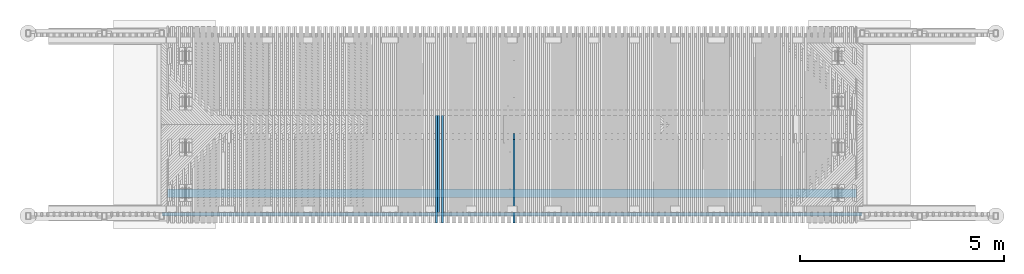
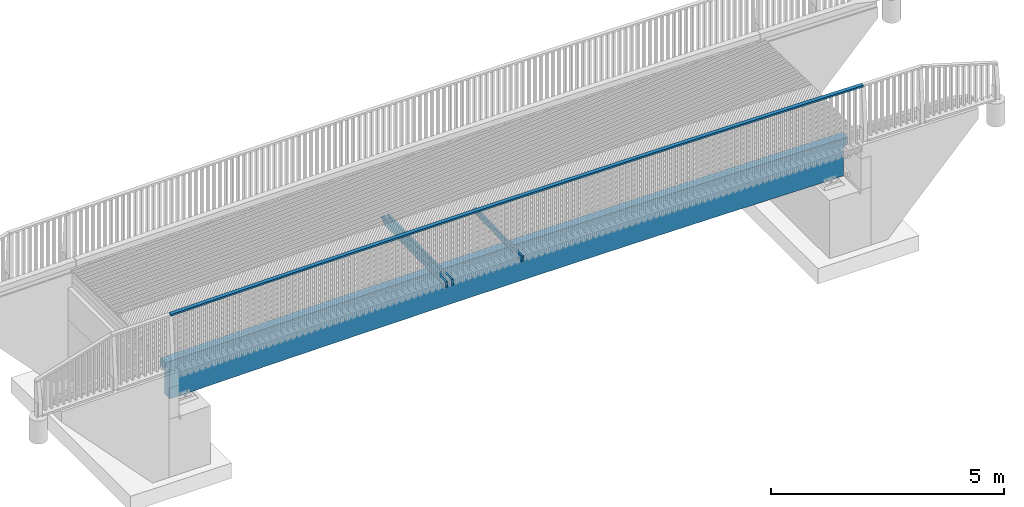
# One storey, part 23 of 47: 6 beams.
"""IFC2X3 building model written with IfcOpenShell, lengths in millimetres."""

import ifcopenshell
import ifcopenshell.guid

model = None  # the IFC model being written
_history = None  # IfcOwnerHistory: only IFC2X3 demands one
_inside = {}  # id of a spatial element -> (the spatial element, [elements in it])
_under = {}  # id of a project, library or spatial element -> (it, [spatial elements below it])
_declared = {}  # id of a project -> (the project, [libraries it declares])
_typed = {}  # id of a type object -> (the type object, [elements of that type])
_made_of = {}  # id of a material, layer set ... -> (it, [elements and type objects made of it])


def new_model(schema):
    """Start an empty IFC model of exactly this schema.

    Asked for "IFC4X3", IfcOpenShell would pick the latest addendum, in which some entities
    have other attributes; the version numbers below select the first issue.
    IFC2X3 requires an IfcOwnerHistory on every rooted entity: one is made here for all.
    """
    global model, _history
    if schema == "IFC4X3":
        model = ifcopenshell.file(schema_version=(4, 3, 0, 0))
    else:
        model = ifcopenshell.file(schema=schema)
    _inside.clear()
    _under.clear()
    _declared.clear()
    _typed.clear()
    _made_of.clear()
    _history = None
    if model.schema == "IFC2X3":
        org = make("IfcOrganization", Name="unknown")
        user = make(
            "IfcPersonAndOrganization",
            ThePerson=make("IfcPerson", FamilyName="unknown"),
            TheOrganization=org,
        )
        app = make(
            "IfcApplication",
            ApplicationDeveloper=org,
            Version="unknown",
            ApplicationFullName="unknown",
            ApplicationIdentifier="unknown",
        )
        _history = make(
            "IfcOwnerHistory",
            OwningUser=user,
            OwningApplication=app,
            ChangeAction="ADDED",
            CreationDate=0,
        )
    return model


def make(cls, **values):
    """One entity of the class cls with the attributes given. An attribute that is None is left unset."""
    return model.create_entity(
        cls, **{name: value for name, value in values.items() if value is not None}
    )


def rooted(cls, **values):
    """An entity with a GlobalId (a new one), such as an element, a storey or a relation."""
    return make(cls, GlobalId=ifcopenshell.guid.new(), OwnerHistory=_history, **values)


def si_unit(unit_type, name, prefix=None):
    """IfcSIUnit, for example si_unit("LENGTHUNIT", "METRE", prefix="MILLI")."""
    return make("IfcSIUnit", UnitType=unit_type, Prefix=prefix, Name=name)


def assignment(units):
    """IfcUnitAssignment: the units of a project."""
    return None if units is None else make("IfcUnitAssignment", Units=units)


def point(xyz):
    """IfcCartesianPoint."""
    return None if xyz is None else make("IfcCartesianPoint", Coordinates=xyz)


def direction(xyz):
    """IfcDirection."""
    return None if xyz is None else make("IfcDirection", DirectionRatios=xyz)


def frame(location, z_axis=None, x_axis=None):
    """IfcAxis2Placement3D, a coordinate frame: its origin and axes. An axis left out is left unset."""
    return make(
        "IfcAxis2Placement3D",
        Location=point(location),
        Axis=direction(z_axis),
        RefDirection=direction(x_axis),
    )


def origin_with_axes():
    """The frame at (0, 0, 0) with the z axis (0, 0, 1) and the x axis (1, 0, 0) written out."""
    return frame((0.0, 0.0, 0.0), z_axis=(0.0, 0.0, 1.0), x_axis=(1.0, 0.0, 0.0))


def place(relative_to, where):
    """IfcLocalPlacement: puts the frame where relative to a parent placement (None: the world)."""
    return make(
        "IfcLocalPlacement", PlacementRelTo=relative_to, RelativePlacement=where
    )


def context(
    kind, dimensions, precision=None, world=None, true_north=None, identifier=None
):
    """IfcGeometricRepresentationContext, for example the 3D "Model" context."""
    return make(
        "IfcGeometricRepresentationContext",
        ContextIdentifier=identifier,
        ContextType=kind,
        CoordinateSpaceDimension=dimensions,
        Precision=precision,
        WorldCoordinateSystem=world,
        TrueNorth=true_north,
    )


def subcontext(parent, identifier, kind, view, scale=None):
    """IfcGeometricRepresentationSubContext, for example "Body" below "Model"."""
    return make(
        "IfcGeometricRepresentationSubContext",
        ContextIdentifier=identifier,
        ContextType=kind,
        ParentContext=parent,
        TargetScale=scale,
        TargetView=view,
    )


def project(units=None, contexts=None):
    """IfcProject with its units and contexts."""
    return rooted(
        "IfcProject",
        Name="project",
        RepresentationContexts=contexts,
        UnitsInContext=assignment(units),
    )


def spatial(cls, under=None, at=None, **own):
    """A site, building, storey or space (cls), placed at a placement, below another one or the project."""
    s = rooted(cls, ObjectPlacement=at, **own)
    if under is not None:
        _under.setdefault(under.id(), (under, []))[1].append(s)
    return s


def faces_of(points, faces, orient=None, outer=None):
    """IfcFace entities. A face is a list of loops; a loop is a list of indices into points, from 0.

    orient and outer hold one flag for each loop. By default every Orientation is true, the
    first loop of a face is its IfcFaceOuterBound and the others are IfcFaceBound.
    """
    made = []
    for i, loops in enumerate(faces):
        bounds = []
        for j, loop in enumerate(loops):
            is_outer = j == 0 if outer is None else outer[i][j]
            bounds.append(
                make(
                    "IfcFaceOuterBound" if is_outer else "IfcFaceBound",
                    Bound=make("IfcPolyLoop", Polygon=[points[k] for k in loop]),
                    Orientation=True if orient is None else orient[i][j],
                )
            )
        made.append(make("IfcFace", Bounds=bounds))
    return made


def faceted_brep(points, faces, orient=None, outer=None, voids=None):
    """IfcFacetedBrep: a solid bounded by flat faces; with voids (closed shells), ...WithVoids."""
    shared = [point(p) for p in points]
    hull = make("IfcClosedShell", CfsFaces=faces_of(shared, faces, orient, outer))
    if voids is None:
        return make("IfcFacetedBrep", Outer=hull)
    return make(
        "IfcFacetedBrepWithVoids",
        Outer=hull,
        Voids=[
            make(cls, CfsFaces=faces_of(shared, fs, o, b)) for cls, fs, o, b in voids
        ],
    )


def shape(context_of_items, identifier, shape_type, items):
    """IfcShapeRepresentation: the items that make up one representation, for example the "Body"."""
    return make(
        "IfcShapeRepresentation",
        ContextOfItems=context_of_items,
        RepresentationIdentifier=identifier,
        RepresentationType=shape_type,
        Items=items,
    )


def material(Name=None, Category=None):
    """IfcMaterial."""
    return make("IfcMaterial", Name=Name, Category=Category)


def made_of(thing, what):
    """Note that an element or type object is made of a material, layer set ...; save() writes the relation."""
    if what is not None:
        _made_of.setdefault(what.id(), (what, []))[1].append(thing)
    return thing


def type_object(cls, material=None, **own):
    """A type object (cls), such as IfcWallType, which elements share."""
    return made_of(rooted(cls, **own), material)


def element(
    cls,
    number,
    at=None,
    inside=None,
    cuts=None,
    type_object=None,
    material=None,
    context=None,
    identifier="Body",
    shape_type=None,
    held_by="IfcProductDefinitionShape",
    body=None,
    shapes=None,
    **own,
):
    """One element of the class cls, such as IfcWall. Its Tag is "e" and its number.

    at: its placement. inside: the storey or other place that contains it. cuts: it is an
    opening in that element (IfcRelVoidsElement). A single representation is given by context,
    identifier, shape_type and body (its items); several are given by shapes. held_by: the class
    of the entity that holds the representations. save() writes the other relations.
    """
    e = rooted(cls, Tag="e%d" % number, ObjectPlacement=at, **own)
    if body is not None:
        shapes = [shape(context, identifier, shape_type, body)]
    if shapes is not None:
        e.Representation = make(held_by, Representations=shapes)
    if inside is not None:
        _inside.setdefault(inside.id(), (inside, []))[1].append(e)
    if cuts is not None:
        rooted(
            "IfcRelVoidsElement", RelatingBuildingElement=cuts, RelatedOpeningElement=e
        )
    if type_object is not None:
        _typed.setdefault(type_object.id(), (type_object, []))[1].append(e)
    return made_of(e, material)


def aggregate(whole, parts):
    """IfcRelAggregates: a whole, such as a stair, and the parts it consists of."""
    return rooted("IfcRelAggregates", RelatingObject=whole, RelatedObjects=parts)


def save(model, path):
    """Write the relations noted so far, then the file.

    IfcRelAggregates (storeys below a building ...), IfcRelContainedInSpatialStructure (elements
    in a storey), IfcRelDefinesByType, IfcRelAssociatesMaterial and IfcRelDeclares: one each for
    every whole, place, type object, material and project.
    """
    for whole, parts in _under.values():
        aggregate(whole, parts)
    for where, things in _inside.values():
        rooted(
            "IfcRelContainedInSpatialStructure",
            RelatedElements=things,
            RelatingStructure=where,
        )
    for kind, things in _typed.values():
        rooted("IfcRelDefinesByType", RelatedObjects=things, RelatingType=kind)
    for what, things in _made_of.values():
        rooted("IfcRelAssociatesMaterial", RelatedObjects=things, RelatingMaterial=what)
    for by, libraries in _declared.values():
        rooted("IfcRelDeclares", RelatingContext=by, RelatedDefinitions=libraries)
    model.write(path)


model = new_model("IFC2X3")

# Units and contexts
model_context = context("Model", 3, precision=1e-05, world=origin_with_axes())
body_context = subcontext(model_context, "Body", "Model", "MODEL_VIEW")
ifc_project = project(units=[si_unit("LENGTHUNIT", "METRE", prefix="MILLI"), si_unit("AREAUNIT", "SQUARE_METRE"), si_unit("VOLUMEUNIT", "CUBIC_METRE"), si_unit("MASSUNIT", "GRAM", prefix="KILO"), si_unit("TIMEUNIT", "SECOND"), si_unit("PLANEANGLEUNIT", "RADIAN"), si_unit("SOLIDANGLEUNIT", "STERADIAN"), si_unit("THERMODYNAMICTEMPERATUREUNIT", "DEGREE_CELSIUS"), si_unit("LUMINOUSINTENSITYUNIT", "LUMEN")], contexts=[model_context])

# Site, building, storey
site_placement = place(None, origin_with_axes())
site = spatial("IfcSite", under=ifc_project, at=site_placement, Name="Undefined", CompositionType="ELEMENT")
building_placement = place(site_placement, origin_with_axes())
building = spatial("IfcBuilding", under=site, at=building_placement, Name="Undefined", CompositionType="ELEMENT")
storey_placement = place(building_placement, origin_with_axes())
storey = spatial("IfcBuildingStorey", under=building, at=storey_placement, Name="Undefined", CompositionType="ELEMENT", Elevation=0.0)

# Beams
ifc_material = material(Name="TIMBER/Timber_Undefined")
beam_type_1 = type_object("IfcBeamType", Name="95*45", PredefinedType="NOTDEFINED")
beam_1_placement = place(storey_placement, frame((-2047.37477855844, 60167.5120919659, 4507.13687854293), z_axis=(0.0, -1.0, 0.0), x_axis=(1.0, 0.0, 0.0)))
element("IfcBeam", 1, at=beam_1_placement, inside=storey, type_object=beam_type_1, material=ifc_material, Name="YLÄJOHDE", ObjectType="95*45", context=body_context, shape_type="Brep", body=[
    faceted_brep([(1607.15024844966, 47.1338297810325, 47.5), (1607.15024844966, 47.1338297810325, -47.5), (1470.37516889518, 45.1743421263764, -47.5), (1470.37516889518, 45.1743421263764, 47.5), (1607.77987788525, 2.13823481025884, -47.5), (1607.77987788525, 2.13823481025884, 47.5), (1470.37516880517, 0.169726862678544, 47.5), (1470.37516880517, 0.169726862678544, -47.5), (2009.64096669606, 7.62762641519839, 47.5), (2009.04131779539, 52.6236309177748, 47.5), (2009.04131779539, 52.6236309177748, -47.5), (2009.64096669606, 7.62762641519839, -47.5), (2411.50562386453, 12.849258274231, -47.5), (2411.50562386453, 12.849258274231, 47.5), (2410.935955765, 57.845652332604, 47.5), (2410.935955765, 57.845652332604, -47.5), (2812.83398393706, 62.7998917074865, -47.5), (2813.37367098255, 17.8031280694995, -47.5), (2813.37367098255, 17.8031280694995, 47.5), (2812.83398393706, 62.7998917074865, 47.5), (3214.73522388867, 67.4863468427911, 47.5), (3214.73522388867, 67.4863468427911, -47.5), (3215.24492964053, 22.4892336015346, -47.5), (3215.24492964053, 22.4892336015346, 47.5), (3617.11922142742, 26.9075727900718, 47.5), (3616.63949719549, 71.9050156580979, 47.5), (3616.63949719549, 71.9050156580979, -47.5), (3617.11922142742, 26.9075727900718, -47.5), (4018.99636793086, 31.0581436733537, -47.5), (4018.99636793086, 31.0581436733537, 47.5), (4018.54662543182, 76.0558961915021, 47.5), (4018.54662543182, 76.0558961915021, -47.5), (4420.45643017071, 79.9389866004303, -47.5), (4420.87619073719, 34.9409444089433, -47.5), (4420.87619073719, 34.9409444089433, 47.5), (4420.45643017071, 79.9389866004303, 47.5), (4822.36873298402, 83.5542851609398, 47.5), (4822.36873298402, 83.5542851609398, -47.5), (4822.75851143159, 38.555973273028, -47.5), (4822.75851143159, 38.555973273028, 47.5), (5224.64315159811, 41.903228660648, 47.5), (5224.2833554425, 86.9017902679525, 47.5), (5224.2833554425, 86.9017902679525, -47.5), (5224.64315159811, 41.903228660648, -47.5), (5626.52993281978, 44.982709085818, -47.5), (5626.52993281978, 44.982709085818, 47.5), (5626.20011911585, 89.9815004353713, 47.5), (5626.20011911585, 89.9815004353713, -47.5), (6028.11884557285, 92.7934142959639, -47.5), (6028.41867667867, 47.7944131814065, -47.5), (6028.41867667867, 47.7944131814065, 47.5), (6028.11884557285, 92.7934142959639, 47.5), (6430.0393563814, 95.3375306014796, 47.5), (6430.0393563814, 95.3375306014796, -47.5), (6430.309204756, 50.3383396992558, -47.5), (6430.309204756, 50.3383396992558, 47.5), (6832.20133863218, 52.6144875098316, 47.5), (6831.96147310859, 97.6138482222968, 47.5), (6831.96147310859, 97.6138482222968, -47.5), (6832.20133863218, 52.6144875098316, -47.5), (7234.09489988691, 54.6228556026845, -47.5), (7234.09489988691, 54.6228556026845, 47.5), (7233.88501732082, 99.6223661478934, 47.5), (7233.88501732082, 99.6223661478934, -47.5), (7635.80981058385, 101.363083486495, -47.5), (7635.98971009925, 56.3634430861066, -47.5), (7635.98971009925, 56.3634430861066, 47.5), (7635.80981058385, 101.363083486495, 47.5), (8037.73567446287, 102.835999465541, 47.5), (8037.73567446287, 102.835999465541, -47.5), (8037.88559084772, 57.8362491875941, -47.5), (8037.88559084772, 57.8362491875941, 47.5), (8439.78236371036, 59.0412732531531, 47.5), (8439.66243052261, 104.041113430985, 47.5), (8439.66243052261, 104.041113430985, -47.5), (8439.78236371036, 59.0412732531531, -47.5), (8841.67985026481, 59.9785147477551, -47.5), (8841.67985026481, 59.9785147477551, 47.5), (8841.5899003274, 104.978424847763, 47.5), (8841.5899003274, 104.978424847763, -47.5), (9243.51790544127, 105.647933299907, -47.5), (9243.57787208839, 60.6479732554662, -47.5), (9243.57787208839, 60.6479732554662, 47.5), (9243.51790544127, 105.647933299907, 47.5), (9645.44626742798, 106.049638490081, 47.5), (9645.44626742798, 106.049638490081, -47.5), (9645.47625075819, 61.0496484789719, -47.5), (9645.47625075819, 61.0496484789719, 47.5), (10047.3748078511, 61.1835402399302, 47.5), (10047.3748078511, 106.18354023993, 47.5), (10047.3748078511, 106.18354023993, -47.5), (10047.3748078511, 61.1835402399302, -47.5), (10449.2733649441, 61.0496484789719, -47.5), (10449.2733649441, 61.0496484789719, 47.5), (10449.3033482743, 106.049638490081, 47.5), (10449.3033482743, 106.049638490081, -47.5), (10851.231710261, 105.647933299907, -47.5), (10851.1717436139, 60.6479732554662, -47.5), (10851.1717436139, 60.6479732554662, 47.5), (10851.231710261, 105.647933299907, 47.5), (11253.1597153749, 104.978424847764, 47.5), (11253.1597153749, 104.978424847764, -47.5), (11253.0697654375, 59.978514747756, -47.5), (11253.0697654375, 59.978514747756, 47.5), (11654.9672519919, 59.0412732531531, 47.5), (11655.0871851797, 104.041113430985, 47.5), (11655.0871851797, 104.041113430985, -47.5), (11654.9672519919, 59.0412732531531, -47.5), (12056.8640248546, 57.8362491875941, -47.5), (12056.8640248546, 57.8362491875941, 47.5), (12057.0139412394, 102.835999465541, 47.5), (12057.0139412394, 102.835999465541, -47.5), (12458.9398051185, 101.363083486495, -47.5), (12458.7599056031, 56.3634430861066, -47.5), (12458.7599056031, 56.3634430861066, 47.5), (12458.9398051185, 101.363083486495, 47.5), (12860.8645983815, 99.6223661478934, 47.5), (12860.8645983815, 99.6223661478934, -47.5), (12860.6547158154, 54.6228556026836, -47.5), (12860.6547158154, 54.6228556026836, 47.5), (13262.5482770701, 52.6144875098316, 47.5), (13262.7881425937, 97.6138482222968, 47.5), (13262.7881425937, 97.6138482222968, -47.5), (13262.5482770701, 52.6144875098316, -47.5), (13664.4404109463, 50.3383396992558, -47.5), (13664.4404109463, 50.3383396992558, 47.5), (13664.7102593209, 95.3375306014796, 47.5), (13664.7102593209, 95.3375306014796, -47.5), (14066.6307701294, 92.7934142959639, -47.5), (14066.3309390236, 47.7944131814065, -47.5), (14066.3309390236, 47.7944131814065, 47.5), (14066.6307701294, 92.7934142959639, 47.5), (14468.5494965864, 89.9815004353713, 47.5), (14468.5494965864, 89.9815004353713, -47.5), (14468.2196828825, 44.9827090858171, -47.5), (14468.2196828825, 44.9827090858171, 47.5), (14870.1064641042, 41.903228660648, 47.5), (14870.4662602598, 86.9017902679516, 47.5), (14870.4662602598, 86.9017902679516, -47.5), (14870.1064641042, 41.903228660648, -47.5), (15271.9911042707, 38.555973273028, -47.5), (15271.9911042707, 38.555973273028, 47.5), (15272.3808827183, 83.5542851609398, 47.5), (15272.3808827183, 83.5542851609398, -47.5), (15674.2931855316, 79.9389866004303, -47.5), (15673.8734249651, 34.9409444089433, -47.5), (15673.8734249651, 34.9409444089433, 47.5), (15674.2931855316, 79.9389866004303, 47.5), (16076.2029902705, 76.0558961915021, 47.5), (16076.2029902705, 76.0558961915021, -47.5), (16075.7532477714, 31.0581436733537, -47.5), (16075.7532477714, 31.0581436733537, 47.5), (16477.6303942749, 26.9075727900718, 47.5), (16478.1101185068, 71.9050156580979, 47.5), (16478.1101185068, 71.9050156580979, -47.5), (16477.6303942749, 26.9075727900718, -47.5), (16879.5046860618, 22.4892336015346, -47.5), (16879.5046860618, 22.4892336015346, 47.5), (16880.0143918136, 67.4863468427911, 47.5), (16880.0143918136, 67.4863468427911, -47.5), (17281.9156317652, 62.7998917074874, -47.5), (17281.3759447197, 17.8031280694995, -47.5), (17281.3759447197, 17.8031280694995, 47.5), (17281.9156317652, 62.7998917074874, 47.5), (17683.8136599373, 57.845652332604, 47.5), (17683.8136599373, 57.845652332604, -47.5), (17683.2439918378, 12.849258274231, -47.5), (17683.2439918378, 12.849258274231, 47.5), (18085.1086490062, 7.62762641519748, 47.5), (18085.7082979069, 52.6236309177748, 47.5), (18085.7082979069, 52.6236309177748, -47.5), (18085.1086490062, 7.62762641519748, -47.5), (18486.969737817, 2.13823481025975, -47.5), (18486.969737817, 2.13823481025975, 47.5), (18487.5993672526, 47.1338297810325, 47.5), (18487.5993672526, 47.1338297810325, -47.5), (18624.3743884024, 45.1743429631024, -47.5), (18624.3743883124, 0.169727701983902, -47.5), (18624.3743883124, 0.169727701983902, 47.5), (18624.3743884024, 45.1743429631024, 47.5)], [[[0, 1, 2, 3]], [[4, 5, 6, 7]], [[1, 4, 7, 2]], [[6, 3, 2, 7]], [[5, 0, 3, 6]], [[0, 5, 8, 9]], [[1, 0, 9, 10]], [[4, 1, 10, 11]], [[5, 4, 11, 8]], [[8, 11, 12, 13]], [[9, 8, 13, 14]], [[10, 9, 14, 15]], [[11, 10, 15, 12]], [[12, 15, 16, 17]], [[13, 12, 17, 18]], [[14, 13, 18, 19]], [[15, 14, 19, 16]], [[16, 19, 20, 21]], [[17, 16, 21, 22]], [[18, 17, 22, 23]], [[19, 18, 23, 20]], [[20, 23, 24, 25]], [[21, 20, 25, 26]], [[22, 21, 26, 27]], [[23, 22, 27, 24]], [[24, 27, 28, 29]], [[25, 24, 29, 30]], [[26, 25, 30, 31]], [[27, 26, 31, 28]], [[28, 31, 32, 33]], [[29, 28, 33, 34]], [[30, 29, 34, 35]], [[31, 30, 35, 32]], [[32, 35, 36, 37]], [[33, 32, 37, 38]], [[34, 33, 38, 39]], [[35, 34, 39, 36]], [[36, 39, 40, 41]], [[37, 36, 41, 42]], [[38, 37, 42, 43]], [[39, 38, 43, 40]], [[40, 43, 44, 45]], [[41, 40, 45, 46]], [[42, 41, 46, 47]], [[43, 42, 47, 44]], [[44, 47, 48, 49]], [[45, 44, 49, 50]], [[46, 45, 50, 51]], [[47, 46, 51, 48]], [[48, 51, 52, 53]], [[49, 48, 53, 54]], [[50, 49, 54, 55]], [[51, 50, 55, 52]], [[52, 55, 56, 57]], [[53, 52, 57, 58]], [[54, 53, 58, 59]], [[55, 54, 59, 56]], [[56, 59, 60, 61]], [[57, 56, 61, 62]], [[58, 57, 62, 63]], [[59, 58, 63, 60]], [[60, 63, 64, 65]], [[61, 60, 65, 66]], [[62, 61, 66, 67]], [[63, 62, 67, 64]], [[64, 67, 68, 69]], [[65, 64, 69, 70]], [[66, 65, 70, 71]], [[67, 66, 71, 68]], [[68, 71, 72, 73]], [[69, 68, 73, 74]], [[70, 69, 74, 75]], [[71, 70, 75, 72]], [[72, 75, 76, 77]], [[73, 72, 77, 78]], [[74, 73, 78, 79]], [[75, 74, 79, 76]], [[76, 79, 80, 81]], [[77, 76, 81, 82]], [[78, 77, 82, 83]], [[79, 78, 83, 80]], [[80, 83, 84, 85]], [[81, 80, 85, 86]], [[82, 81, 86, 87]], [[83, 82, 87, 84]], [[84, 87, 88, 89]], [[85, 84, 89, 90]], [[86, 85, 90, 91]], [[87, 86, 91, 88]], [[88, 91, 92, 93]], [[89, 88, 93, 94]], [[90, 89, 94, 95]], [[91, 90, 95, 92]], [[92, 95, 96, 97]], [[93, 92, 97, 98]], [[94, 93, 98, 99]], [[95, 94, 99, 96]], [[96, 99, 100, 101]], [[97, 96, 101, 102]], [[98, 97, 102, 103]], [[99, 98, 103, 100]], [[100, 103, 104, 105]], [[101, 100, 105, 106]], [[102, 101, 106, 107]], [[103, 102, 107, 104]], [[104, 107, 108, 109]], [[105, 104, 109, 110]], [[106, 105, 110, 111]], [[107, 106, 111, 108]], [[108, 111, 112, 113]], [[109, 108, 113, 114]], [[110, 109, 114, 115]], [[111, 110, 115, 112]], [[112, 115, 116, 117]], [[113, 112, 117, 118]], [[114, 113, 118, 119]], [[115, 114, 119, 116]], [[116, 119, 120, 121]], [[117, 116, 121, 122]], [[118, 117, 122, 123]], [[119, 118, 123, 120]], [[120, 123, 124, 125]], [[121, 120, 125, 126]], [[122, 121, 126, 127]], [[123, 122, 127, 124]], [[124, 127, 128, 129]], [[125, 124, 129, 130]], [[126, 125, 130, 131]], [[127, 126, 131, 128]], [[128, 131, 132, 133]], [[129, 128, 133, 134]], [[130, 129, 134, 135]], [[131, 130, 135, 132]], [[132, 135, 136, 137]], [[133, 132, 137, 138]], [[134, 133, 138, 139]], [[135, 134, 139, 136]], [[136, 139, 140, 141]], [[137, 136, 141, 142]], [[138, 137, 142, 143]], [[139, 138, 143, 140]], [[140, 143, 144, 145]], [[141, 140, 145, 146]], [[142, 141, 146, 147]], [[143, 142, 147, 144]], [[144, 147, 148, 149]], [[145, 144, 149, 150]], [[146, 145, 150, 151]], [[147, 146, 151, 148]], [[148, 151, 152, 153]], [[149, 148, 153, 154]], [[150, 149, 154, 155]], [[151, 150, 155, 152]], [[152, 155, 156, 157]], [[153, 152, 157, 158]], [[154, 153, 158, 159]], [[155, 154, 159, 156]], [[156, 159, 160, 161]], [[157, 156, 161, 162]], [[158, 157, 162, 163]], [[159, 158, 163, 160]], [[160, 163, 164, 165]], [[161, 160, 165, 166]], [[162, 161, 166, 167]], [[163, 162, 167, 164]], [[164, 167, 168, 169]], [[165, 164, 169, 170]], [[166, 165, 170, 171]], [[167, 166, 171, 168]], [[168, 171, 172, 173]], [[169, 168, 173, 174]], [[170, 169, 174, 175]], [[171, 170, 175, 172]], [[172, 175, 176, 177]], [[173, 172, 177, 178]], [[174, 173, 178, 179]], [[175, 174, 179, 176]], [[178, 177, 176, 179]]]),
])
beam_type_2 = type_object("IfcBeamType", Name="150*50", PredefinedType="NOTDEFINED")
for number, where, z_axis, x_axis, name in (
    (2, (6149.62409713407, 59958.5561921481, 3085.14487300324), (-0.0030706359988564, -0.01999600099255, 0.999795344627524), (-6.1412999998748e-05, 0.999800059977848, 0.019995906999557), "BEAM"),
    (3, (6299.65220868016, 59958.5561921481, 3085.58735179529), (-0.00282145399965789, -0.0199960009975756, 0.999796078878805), (-5.64289999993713e-05, 0.999800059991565, 0.0199959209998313), "BEAM"),
):
    element("IfcBeam", number, at=place(storey_placement, frame(where, z_axis=z_axis, x_axis=x_axis)), inside=storey, type_object=beam_type_2, material=ifc_material, Name=name, ObjectType="150*50", context=body_context, shape_type="Brep", body=[
        faceted_brep([(6.18456397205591e-09, -24.9999999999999, -75.0000000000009), (-6.1918399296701e-09, -24.9999999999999, 74.9999999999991), (-6.19911588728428e-09, 25.0, 75.0), (6.18456397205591e-09, 24.9999999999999, -75.0), (2633.00494983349, 25.0000000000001, -75.0000000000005), (2633.00495050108, -24.9999999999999, -75.0000000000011), (2768.59248707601, -25.0, 60.5875366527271), (2408.42499905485, -25.0, 74.9999999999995), (2408.42501428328, 25.0000000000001, 74.9999999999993), (2768.5924870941, 25.0, 60.5875375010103)], [[[0, 1, 2, 3]], [[0, 3, 4, 5]], [[1, 0, 5, 6, 7]], [[2, 1, 7, 8]], [[4, 3, 2, 8, 9]], [[5, 4, 9, 6]], [[8, 7, 6, 9]]]),
    ])
beam_2_placement = place(storey_placement, frame((6199.61803930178, 60216.5046076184, 3090.45546512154), z_axis=(-0.002987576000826, -0.019996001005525, 0.999795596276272), x_axis=(-5.97510000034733e-05, 0.999800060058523, 0.0199959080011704)))
element("IfcBeam", 4, at=beam_2_placement, inside=storey, type_object=beam_type_2, material=ifc_material, Name="BEAM", ObjectType="150*50", context=body_context, shape_type="Brep", body=[
    faceted_brep([(6.18456397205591e-09, -24.9999999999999, -75.0000000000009), (-6.1918399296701e-09, -24.9999999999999, 74.9999999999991), (-6.19911588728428e-09, 25.0, 75.0), (6.18456397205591e-09, 24.9999999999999, -75.0), (2375.00494220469, 24.9999999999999, -75.0000000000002), (2375.00494218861, -25.0, -75.0), (2510.59248711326, -25.0, 60.5875455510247), (2150.42518973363, -25.0, 75.0000000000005), (2150.42518840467, 25.0, 74.9999999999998), (2510.59248707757, 25.0, 60.5875454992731)], [[[0, 1, 2, 3]], [[0, 3, 4, 5]], [[1, 0, 5, 6, 7]], [[2, 1, 7, 8]], [[4, 3, 2, 8, 9]], [[5, 4, 9, 6]], [[8, 7, 6, 9]]]),
])
beam_3_placement = place(storey_placement, frame((8049.85148973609, 59958.5561921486, 3087.98808878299), z_axis=(2.44399999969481e-06, -0.0199960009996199, 0.99980005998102), x_axis=(4.90000000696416e-08, 0.99980006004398, 0.0199959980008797)))
element("IfcBeam", 5, at=beam_3_placement, inside=storey, type_object=beam_type_2, material=ifc_material, Name="BEAM", ObjectType="150*50", context=body_context, shape_type="Brep", body=[
    faceted_brep([(6.18456397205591e-09, -24.9999999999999, -75.0000000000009), (-6.1918399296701e-09, -24.9999999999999, 74.9999999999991), (-6.19911588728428e-09, 25.0, 75.0), (6.18456397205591e-09, 24.9999999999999, -75.0), (2186.42645915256, -25.0000000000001, -75.0), (2047.96936034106, -25.0000000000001, 75.0), (2047.96935975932, 25.0, 75.0), (2186.42645864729, 25.0, -75.0)], [[[0, 1, 2, 3]], [[1, 0, 4, 5]], [[2, 1, 5, 6]], [[3, 2, 6, 7]], [[0, 3, 7, 4]], [[5, 4, 7, 6]]]),
])
beam_type_3 = type_object("IfcBeamType", Name="990*215", PredefinedType="NOTDEFINED")
beam_4_placement = place(storey_placement, frame((243.613169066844, 60685.0, 2480.11879463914), z_axis=(0.0, 0.0, 1.0), x_axis=(1.0, 0.0, 0.0)))
element("IfcBeam", 6, at=beam_4_placement, inside=storey, type_object=beam_type_3, material=ifc_material, Name="PALKKI", ObjectType="990*215", context=body_context, shape_type="Brep", body=[
    faceted_brep([(16106.3868309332, 107.5, -494.790894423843), (16106.3868309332, -107.5, -494.790894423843), (16080.5342107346, -107.5, -494.790894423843), (15793.4597682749, -107.5, -494.790894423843), (15506.3868309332, -107.5, -494.958794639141), (15506.3868309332, 107.5, -494.958794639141), (15793.4597682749, 107.5, -494.790894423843), (16080.5342107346, 107.5, -494.790894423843), (16106.3868309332, 107.499999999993, 285.209105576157), (16106.3868309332, -107.5, 285.209105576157), (16206.3868309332, 107.499999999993, 285.209105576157), (16206.3868309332, -107.5, 285.209105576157), (16206.3868309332, 107.5, 485.682039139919), (16206.3868309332, -107.5, 485.682039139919), (-627.370013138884, 107.5, 486.625216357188), (-627.370013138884, -107.5, 486.625216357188), (-316.879497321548, -107.5, 490.87213125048), (-316.879497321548, 107.5, 490.87213125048), (-693.613169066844, -107.5, 485.684940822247), (-693.613169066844, -107.5, 285.209105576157), (-624.563039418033, -107.5, 285.209105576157), (-693.613169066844, 107.5, 485.684940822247), (-693.613169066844, 107.499999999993, 285.209105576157), (-624.563039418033, 107.5, 285.209105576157), (-593.613169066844, 107.500000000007, 285.209105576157), (-593.613169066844, -107.5, 285.209105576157), (-593.613169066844, 107.499999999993, -494.790894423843), (-593.613169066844, -107.5, -494.790894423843), (-303.651924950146, -107.5, -494.790894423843), (-6.38683093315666, -107.5, 494.958794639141), (6.38683093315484, -107.5, -494.958794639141), (-6.38683093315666, 107.5, 494.958794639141), (6.38683093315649, 107.5, -494.790894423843), (304.107903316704, 107.5, 498.885205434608), (316.370645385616, 107.5, -491.038844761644), (-303.651924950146, 107.5, -494.790894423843), (316.370645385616, -107.5, -491.038844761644), (304.107903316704, -107.5, 498.885205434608), (614.604622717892, -107.5, 502.651362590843), (614.604622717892, 107.5, 502.651362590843), (626.356441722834, 107.5, -487.278884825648), (626.356441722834, -107.5, -487.278884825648), (936.344137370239, -107.5, -483.678915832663), (925.103244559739, -107.5, 506.257265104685), (925.103244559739, 107.5, 506.257265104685), (936.344137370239, 107.5, -483.678915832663), (1246.33364975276, 107.5, -480.238938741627), (1246.33364975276, -107.5, -480.238938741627), (1235.60368613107, -107.5, 509.702912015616), (1235.60368613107, 107.5, 509.702912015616), (1546.10586472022, 107.5, 512.988302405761), (1556.32489629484, 107.5, -476.958954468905), (1556.32489629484, -107.5, -476.958954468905), (1546.10586472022, -107.5, 512.988302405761), (1856.60969761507, -107.5, 516.113435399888), (1856.60969761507, 107.5, 516.113435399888), (1866.31779442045, 107.5, -473.838963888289), (1866.31779442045, -107.5, -473.838963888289), (2176.31226155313, -107.5, -470.878967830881), (2167.11510210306, -107.5, 519.078310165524), (2167.11510210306, 107.5, 519.078310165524), (2176.31226155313, 107.5, -470.878967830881), (2486.30821511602, 107.5, -468.078967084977), (2486.30821511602, -107.5, -468.078967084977), (2477.6219954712, -107.5, 521.882925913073), (2477.6219954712, 107.5, 521.882925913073), (2788.13029500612, 107.5, 524.527281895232), (2796.30557253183, 107.5, -465.438962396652), (2796.30557253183, -107.5, -465.438962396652), (2788.13029500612, -107.5, 524.527281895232), (3098.63991799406, -107.5, 527.011377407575), (3098.63991799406, 107.5, 527.011377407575), (3106.30425122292, 107.5, -462.958954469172), (3106.30425122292, -107.5, -462.958954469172), (3416.30416861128, -107.5, -460.638943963), (3409.15078172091, -107.5, 529.335211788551), (3409.15078172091, 107.5, 529.335211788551), (3416.30416861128, 107.5, -460.638943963), (3726.30524211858, 107.5, -458.478931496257), (3726.30524211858, -107.5, -458.478931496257), (3719.66280347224, -107.5, 531.49878441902), (3719.66280347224, 107.5, 531.49878441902), (4030.1759005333, 107.5, 533.502094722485), (4036.3073891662, 107.5, -456.478917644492), (4036.3073891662, -107.5, -456.478917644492), (4030.1759005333, -107.5, 533.502094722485), (4340.68999018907, -107.5, 535.345142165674), (4340.68999018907, 107.5, 535.345142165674), (4346.3105271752, 107.5, -454.638902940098), (4346.3105271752, -107.5, -454.638902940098), (4656.31457356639, -107.5, -452.958887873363), (4651.20498972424, -107.5, 537.027926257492), (4651.20498972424, 107.5, 537.027926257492), (4656.31457356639, 107.5, -452.958887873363), (4966.31944576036, 107.5, -451.438872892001), (4966.31944576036, -107.5, -451.438872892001), (4961.72081642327, -107.5, 538.550446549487), (4961.72081642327, 107.5, 538.550446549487), (5272.23738757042, 107.5, 539.912702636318), (5276.32506117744, 107.5, -450.078858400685), (5276.32506117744, -107.5, -450.078858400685), (5272.23738757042, -107.5, 539.912702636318), (5582.75462044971, -107.5, 541.114694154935), (5582.75462044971, 107.5, 541.114694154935), (5586.33133723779, 107.5, -448.878844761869), (5586.33133723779, -107.5, -448.878844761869), (5896.33819136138, -107.5, -447.838832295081), (5893.27243234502, -107.5, 542.156420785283), (5893.27243234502, 107.5, 542.156420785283), (5896.33819136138, 107.5, -447.838832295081), (6206.34554096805, 107.5, -446.958821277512), (6206.34554096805, -107.5, -446.958821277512), (6203.79074054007, -107.5, 543.037882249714), (6203.79074054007, 107.5, 543.037882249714), (6514.30946231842, 107.5, 543.759078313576), (6516.35330347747, 107.5, -446.238811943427), (6516.35330347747, -107.5, -446.238811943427), (6514.30946231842, -107.5, 543.759078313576), (6824.82851496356, -107.5, 544.320008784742), (6824.82851496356, 107.5, 544.320008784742), (6826.36139630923, 107.5, -445.678804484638), (6826.36139630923, -107.5, -445.678804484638), (7136.36973688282, -107.5, -445.278799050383), (7135.34781575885, -107.5, 544.720673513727), (7135.34781575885, 107.5, 544.720673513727), (7136.36973688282, 107.5, -445.278799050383), (7446.37824261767, 107.5, -445.038795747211), (7446.37824261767, -107.5, -445.038795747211), (7445.86728198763, -107.5, 544.961072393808), (7445.86728198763, 107.5, 544.961072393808), (7756.38683093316, 107.5, 545.041205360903), (7756.38683093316, 107.5, -444.958794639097), (7756.38683093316, -107.5, -444.958794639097), (7756.38683093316, -107.5, 545.041205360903), (8066.90637987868, -107.5, 544.961072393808), (8066.90637987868, 107.5, 544.961072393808), (8066.39541924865, 107.5, -445.038795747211), (8066.39541924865, -107.5, -445.038795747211), (8376.40392498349, -107.5, -445.278799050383), (8377.42584610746, -107.5, 544.720673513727), (8377.42584610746, 107.5, 544.720673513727), (8376.40392498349, 107.5, -445.278799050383), (8686.41226555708, 107.5, -445.678804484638), (8686.41226555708, -107.5, -445.678804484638), (8687.94514690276, -107.5, 544.320008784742), (8687.94514690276, 107.5, 544.320008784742), (8998.46419954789, 107.5, 543.759078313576), (8996.42035838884, 107.5, -446.238811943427), (8996.42035838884, -107.5, -446.238811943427), (8998.46419954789, -107.5, 543.759078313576), (9308.98292132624, -107.5, 543.037882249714), (9308.98292132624, 107.5, 543.037882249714), (9306.42812089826, 107.5, -446.958821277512), (9306.42812089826, -107.5, -446.958821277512), (9616.43547050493, -107.5, -447.838832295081), (9619.50122952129, -107.5, 542.156420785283), (9619.50122952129, 107.5, 542.156420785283), (9616.43547050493, 107.5, -447.838832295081), (9926.44232462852, 107.5, -448.878844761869), (9926.44232462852, -107.5, -448.878844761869), (9930.0190414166, -107.5, 541.114694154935), (9930.0190414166, 107.5, 541.114694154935), (10240.5362742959, 107.5, 539.912702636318), (10236.4486006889, 107.5, -450.078858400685), (10236.4486006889, -107.5, -450.078858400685), (10240.5362742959, -107.5, 539.912702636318), (10551.052845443, -107.5, 538.550446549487), (10551.052845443, 107.5, 538.550446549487), (10546.454216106, 107.5, -451.438872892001), (10546.454216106, -107.5, -451.438872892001), (10856.4590882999, -107.5, -452.958887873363), (10861.5686721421, -107.5, 537.027926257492), (10861.5686721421, 107.5, 537.027926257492), (10856.4590882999, 107.5, -452.958887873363), (11166.4631346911, 107.5, -454.638902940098), (11166.4631346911, -107.5, -454.638902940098), (11172.0836716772, -107.5, 535.345142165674), (11172.0836716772, 107.5, 535.345142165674), (11482.597761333, 107.5, 533.502094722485), (11476.4662727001, 107.5, -456.478917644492), (11476.4662727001, -107.5, -456.478917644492), (11482.597761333, -107.5, 533.502094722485), (11793.1108583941, -107.5, 531.49878441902), (11793.1108583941, 107.5, 531.49878441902), (11786.4684197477, 107.5, -458.478931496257), (11786.4684197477, -107.5, -458.478931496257), (12096.469493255, -107.5, -460.638943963), (12103.6228801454, -107.5, 529.335211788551), (12103.6228801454, 107.5, 529.335211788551), (12096.469493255, 107.5, -460.638943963), (12406.4694106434, 107.5, -462.958954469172), (12406.4694106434, -107.5, -462.958954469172), (12414.1337438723, -107.5, 527.011377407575), (12414.1337438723, 107.5, 527.011377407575), (12724.6433668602, 107.5, 524.527281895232), (12716.4680893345, 107.5, -465.438962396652), (12716.4680893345, -107.5, -465.438962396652), (12724.6433668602, -107.5, 524.527281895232), (13035.1516663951, -107.5, 521.882925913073), (13035.1516663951, 107.5, 521.882925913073), (13026.4654467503, 107.5, -468.078967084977), (13026.4654467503, -107.5, -468.078967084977), (13336.4614003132, -107.5, -470.878967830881), (13345.6585597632, -107.5, 519.078310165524), (13345.6585597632, 107.5, 519.078310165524), (13336.4614003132, 107.5, -470.878967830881), (13646.4558674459, 107.5, -473.838963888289), (13646.4558674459, -107.5, -473.838963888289), (13656.1639642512, -107.5, 516.113435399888), (13656.1639642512, 107.5, 516.113435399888), (13966.6677971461, 107.5, 512.988302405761), (13956.4487655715, 107.5, -476.958954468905), (13956.4487655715, -107.5, -476.958954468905), (13966.6677971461, -107.5, 512.988302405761), (14277.1699757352, -107.5, 509.702912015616), (14277.1699757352, 107.5, 509.702912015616), (14266.4400121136, 107.5, -480.238938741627), (14266.4400121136, -107.5, -480.238938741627), (14576.4295244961, -107.5, -483.678915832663), (14587.6704173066, -107.5, 506.257265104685), (14587.6704173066, 107.5, 506.257265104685), (14576.4295244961, 107.5, -483.678915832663), (14886.4172201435, 107.5, -487.278884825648), (14886.4172201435, -107.5, -487.278884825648), (14898.1690391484, -107.5, 502.651362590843), (14898.1690391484, 107.5, 502.651362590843), (15208.6657585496, 107.5, 498.885205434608), (15196.4030164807, 107.5, -491.038844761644), (15196.4030164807, -107.5, -491.038844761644), (15208.6657585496, -107.5, 498.885205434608), (15519.1604927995, -107.5, 494.958794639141), (15519.1604927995, 107.5, 494.958794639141), (15806.6537751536, -107.5, 491.180342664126), (15806.6537751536, 107.5, 491.180342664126), (16094.1452189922, -107.5, 487.264500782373), (16094.1452189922, 107.5, 487.264500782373)], [[[0, 1, 2, 3, 4, 5, 6, 7]], [[8, 9, 1, 0]], [[10, 11, 9, 8]], [[12, 13, 11, 10]], [[14, 15, 16, 17]], [[15, 18, 19, 20]], [[21, 22, 19, 18]], [[15, 14, 21, 18]], [[21, 14, 23, 22]], [[24, 25, 20, 19, 22, 23]], [[26, 27, 25, 24]], [[16, 15, 20, 25, 27, 28]], [[29, 16, 28, 30]], [[17, 16, 29, 31]], [[32, 31, 33, 34]], [[17, 31, 32, 35]], [[24, 23, 14, 17, 35, 26]], [[32, 30, 28, 27, 26, 35]], [[34, 36, 30, 32]], [[29, 30, 36, 37]], [[31, 29, 37, 33]], [[33, 37, 38, 39]], [[34, 33, 39, 40]], [[36, 34, 40, 41]], [[37, 36, 41, 38]], [[38, 41, 42, 43]], [[39, 38, 43, 44]], [[40, 39, 44, 45]], [[41, 40, 45, 42]], [[42, 45, 46, 47]], [[43, 42, 47, 48]], [[44, 43, 48, 49]], [[45, 44, 49, 46]], [[46, 49, 50, 51]], [[47, 46, 51, 52]], [[48, 47, 52, 53]], [[49, 48, 53, 50]], [[50, 53, 54, 55]], [[51, 50, 55, 56]], [[52, 51, 56, 57]], [[53, 52, 57, 54]], [[54, 57, 58, 59]], [[55, 54, 59, 60]], [[56, 55, 60, 61]], [[57, 56, 61, 58]], [[58, 61, 62, 63]], [[59, 58, 63, 64]], [[60, 59, 64, 65]], [[61, 60, 65, 62]], [[62, 65, 66, 67]], [[63, 62, 67, 68]], [[64, 63, 68, 69]], [[65, 64, 69, 66]], [[66, 69, 70, 71]], [[67, 66, 71, 72]], [[68, 67, 72, 73]], [[69, 68, 73, 70]], [[70, 73, 74, 75]], [[71, 70, 75, 76]], [[72, 71, 76, 77]], [[73, 72, 77, 74]], [[74, 77, 78, 79]], [[75, 74, 79, 80]], [[76, 75, 80, 81]], [[77, 76, 81, 78]], [[78, 81, 82, 83]], [[79, 78, 83, 84]], [[80, 79, 84, 85]], [[81, 80, 85, 82]], [[82, 85, 86, 87]], [[83, 82, 87, 88]], [[84, 83, 88, 89]], [[85, 84, 89, 86]], [[86, 89, 90, 91]], [[87, 86, 91, 92]], [[88, 87, 92, 93]], [[89, 88, 93, 90]], [[90, 93, 94, 95]], [[91, 90, 95, 96]], [[92, 91, 96, 97]], [[93, 92, 97, 94]], [[94, 97, 98, 99]], [[95, 94, 99, 100]], [[96, 95, 100, 101]], [[97, 96, 101, 98]], [[98, 101, 102, 103]], [[99, 98, 103, 104]], [[100, 99, 104, 105]], [[101, 100, 105, 102]], [[102, 105, 106, 107]], [[103, 102, 107, 108]], [[104, 103, 108, 109]], [[105, 104, 109, 106]], [[106, 109, 110, 111]], [[107, 106, 111, 112]], [[108, 107, 112, 113]], [[109, 108, 113, 110]], [[110, 113, 114, 115]], [[111, 110, 115, 116]], [[112, 111, 116, 117]], [[113, 112, 117, 114]], [[114, 117, 118, 119]], [[115, 114, 119, 120]], [[116, 115, 120, 121]], [[117, 116, 121, 118]], [[118, 121, 122, 123]], [[119, 118, 123, 124]], [[120, 119, 124, 125]], [[121, 120, 125, 122]], [[122, 125, 126, 127]], [[123, 122, 127, 128]], [[124, 123, 128, 129]], [[125, 124, 129, 126]], [[126, 129, 130, 131]], [[127, 126, 131, 132]], [[128, 127, 132, 133]], [[129, 128, 133, 130]], [[130, 133, 134, 135]], [[131, 130, 135, 136]], [[132, 131, 136, 137]], [[133, 132, 137, 134]], [[134, 137, 138, 139]], [[135, 134, 139, 140]], [[136, 135, 140, 141]], [[137, 136, 141, 138]], [[138, 141, 142, 143]], [[139, 138, 143, 144]], [[140, 139, 144, 145]], [[141, 140, 145, 142]], [[142, 145, 146, 147]], [[143, 142, 147, 148]], [[144, 143, 148, 149]], [[145, 144, 149, 146]], [[146, 149, 150, 151]], [[147, 146, 151, 152]], [[148, 147, 152, 153]], [[149, 148, 153, 150]], [[150, 153, 154, 155]], [[151, 150, 155, 156]], [[152, 151, 156, 157]], [[153, 152, 157, 154]], [[154, 157, 158, 159]], [[155, 154, 159, 160]], [[156, 155, 160, 161]], [[157, 156, 161, 158]], [[158, 161, 162, 163]], [[159, 158, 163, 164]], [[160, 159, 164, 165]], [[161, 160, 165, 162]], [[162, 165, 166, 167]], [[163, 162, 167, 168]], [[164, 163, 168, 169]], [[165, 164, 169, 166]], [[166, 169, 170, 171]], [[167, 166, 171, 172]], [[168, 167, 172, 173]], [[169, 168, 173, 170]], [[170, 173, 174, 175]], [[171, 170, 175, 176]], [[172, 171, 176, 177]], [[173, 172, 177, 174]], [[174, 177, 178, 179]], [[175, 174, 179, 180]], [[176, 175, 180, 181]], [[177, 176, 181, 178]], [[178, 181, 182, 183]], [[179, 178, 183, 184]], [[180, 179, 184, 185]], [[181, 180, 185, 182]], [[182, 185, 186, 187]], [[183, 182, 187, 188]], [[184, 183, 188, 189]], [[185, 184, 189, 186]], [[186, 189, 190, 191]], [[187, 186, 191, 192]], [[188, 187, 192, 193]], [[189, 188, 193, 190]], [[190, 193, 194, 195]], [[191, 190, 195, 196]], [[192, 191, 196, 197]], [[193, 192, 197, 194]], [[194, 197, 198, 199]], [[195, 194, 199, 200]], [[196, 195, 200, 201]], [[197, 196, 201, 198]], [[198, 201, 202, 203]], [[199, 198, 203, 204]], [[200, 199, 204, 205]], [[201, 200, 205, 202]], [[202, 205, 206, 207]], [[203, 202, 207, 208]], [[204, 203, 208, 209]], [[205, 204, 209, 206]], [[206, 209, 210, 211]], [[207, 206, 211, 212]], [[208, 207, 212, 213]], [[209, 208, 213, 210]], [[210, 213, 214, 215]], [[211, 210, 215, 216]], [[212, 211, 216, 217]], [[213, 212, 217, 214]], [[214, 217, 218, 219]], [[215, 214, 219, 220]], [[216, 215, 220, 221]], [[217, 216, 221, 218]], [[218, 221, 222, 223]], [[219, 218, 223, 224]], [[220, 219, 224, 225]], [[221, 220, 225, 222]], [[222, 225, 226, 227]], [[223, 222, 227, 228]], [[224, 223, 228, 229]], [[225, 224, 229, 226]], [[226, 229, 230, 231]], [[231, 230, 232, 233]], [[233, 232, 234, 235]], [[8, 0, 7, 235, 12, 10]], [[233, 235, 7, 6]], [[231, 233, 6, 5]], [[227, 226, 231, 5]], [[228, 227, 5, 4]], [[229, 228, 4, 230]], [[232, 230, 4, 3]], [[234, 232, 3, 2]], [[234, 2, 1, 9, 11, 13]], [[235, 234, 13, 12]]]),
])

save(model, "model.ifc")
